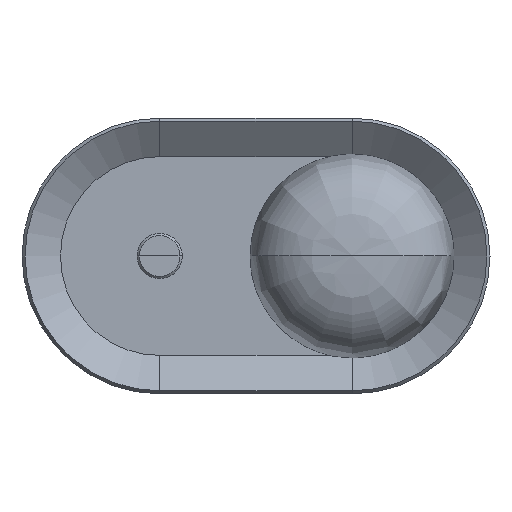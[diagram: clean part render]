
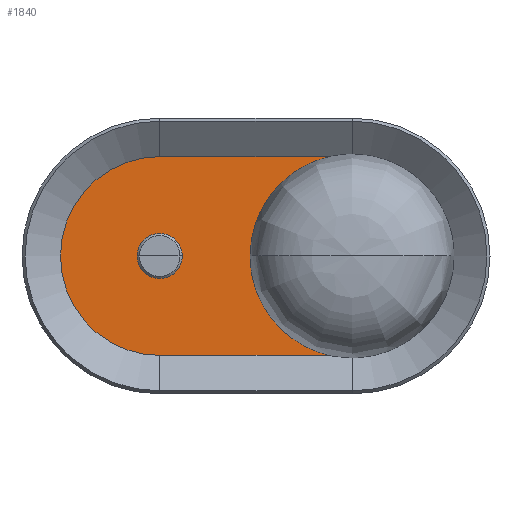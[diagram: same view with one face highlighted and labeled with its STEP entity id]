
A CAD part, top view. The second image highlights one B-rep face of the part: STEP entity #1840.
In plain terms, the highlighted planar face has unit normal (0, 0, 1).
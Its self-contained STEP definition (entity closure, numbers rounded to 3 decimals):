
#237=PLANE('',#2032);
#351=FACE_OUTER_BOUND('',#477,.T.);
#477=EDGE_LOOP('',(#1642,#1643,#1644,#1645));
#572=LINE('',#6139,#662);
#576=LINE('',#6146,#666);
#662=VECTOR('',#2476,304.8);
#666=VECTOR('',#2482,304.8);
#738=CIRCLE('',#2011,43.954);
#742=CIRCLE('',#2033,43.954);
#880=VERTEX_POINT('',#5995);
#881=VERTEX_POINT('',#5997);
#903=VERTEX_POINT('',#6138);
#905=VERTEX_POINT('',#6144);
#1118=EDGE_CURVE('',#881,#880,#738,.T.);
#1153=EDGE_CURVE('',#903,#881,#572,.T.);
#1157=EDGE_CURVE('',#880,#905,#576,.T.);
#1163=EDGE_CURVE('',#903,#905,#742,.T.);
#1642=ORIENTED_EDGE('',*,*,#1163,.F.);
#1643=ORIENTED_EDGE('',*,*,#1153,.T.);
#1644=ORIENTED_EDGE('',*,*,#1118,.T.);
#1645=ORIENTED_EDGE('',*,*,#1157,.T.);
#1840=ADVANCED_FACE('',(#351),#237,.T.);
#2011=AXIS2_PLACEMENT_3D('',#5998,#2422,#2423);
#2032=AXIS2_PLACEMENT_3D('',#6162,#2493,#2494);
#2033=AXIS2_PLACEMENT_3D('',#6163,#2495,#2496);
#2422=DIRECTION('center_axis',(0.,0.,1.));
#2423=DIRECTION('ref_axis',(0.809,-0.588,0.));
#2476=DIRECTION('',(0.,-1.,0.));
#2482=DIRECTION('',(0.,1.,0.));
#2493=DIRECTION('center_axis',(0.,0.,1.));
#2494=DIRECTION('ref_axis',(1.,0.,0.));
#2495=DIRECTION('center_axis',(0.,0.,-1.));
#2496=DIRECTION('ref_axis',(0.809,0.588,0.));
#5995=CARTESIAN_POINT('',(43.954,-42.5,32.705));
#5997=CARTESIAN_POINT('',(-43.954,-42.5,32.705));
#5998=CARTESIAN_POINT('Origin',(0.,-42.5,32.705));
#6138=CARTESIAN_POINT('',(-43.954,42.5,32.705));
#6139=CARTESIAN_POINT('',(-43.954,42.5,32.705));
#6144=CARTESIAN_POINT('',(43.954,42.5,32.705));
#6146=CARTESIAN_POINT('',(43.954,-42.5,32.705));
#6162=CARTESIAN_POINT('Origin',(0.,42.5,32.705));
#6163=CARTESIAN_POINT('Origin',(0.,42.5,32.705));
